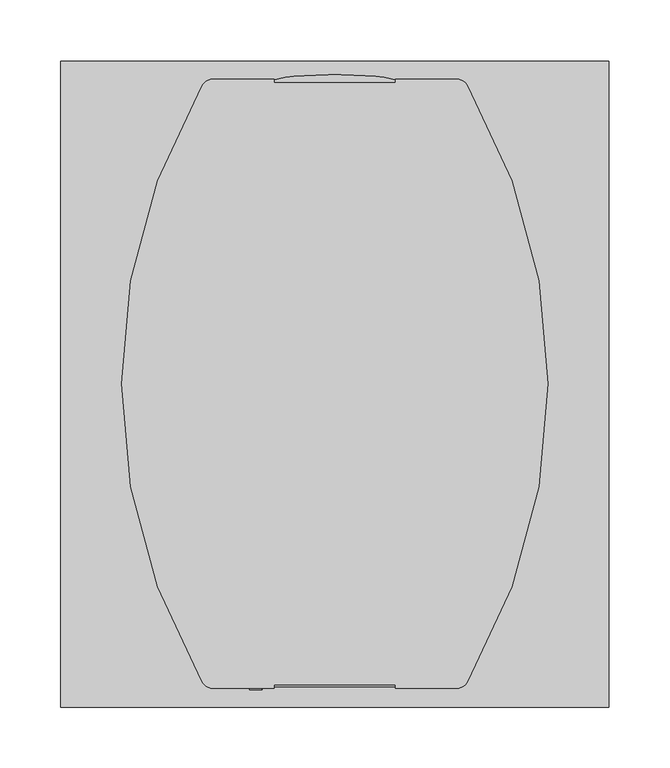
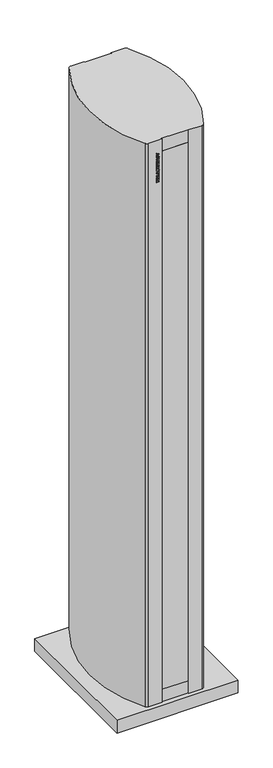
"""IFC4 building model written with IfcOpenShell, lengths in millimetres: proxy geometry, ИЗТТ_Завеса дизайнерская_Электрическая : KVC-S22E18-31."""

import ifcopenshell
import ifcopenshell.guid

model = None  # the IFC model being written
_history = None  # IfcOwnerHistory: only IFC2X3 demands one
_inside = {}  # id of a spatial element -> (the spatial element, [elements in it])
_under = {}  # id of a project, library or spatial element -> (it, [spatial elements below it])
_declared = {}  # id of a project -> (the project, [libraries it declares])
_typed = {}  # id of a type object -> (the type object, [elements of that type])
_made_of = {}  # id of a material, layer set ... -> (it, [elements and type objects made of it])


def new_model(schema):
    """Start an empty IFC model of exactly this schema.

    Asked for "IFC4X3", IfcOpenShell would pick the latest addendum, in which some entities
    have other attributes; the version numbers below select the first issue.
    IFC2X3 requires an IfcOwnerHistory on every rooted entity: one is made here for all.
    """
    global model, _history
    if schema == "IFC4X3":
        model = ifcopenshell.file(schema_version=(4, 3, 0, 0))
    else:
        model = ifcopenshell.file(schema=schema)
    _inside.clear()
    _under.clear()
    _declared.clear()
    _typed.clear()
    _made_of.clear()
    _history = None
    if model.schema == "IFC2X3":
        org = make("IfcOrganization", Name="unknown")
        user = make(
            "IfcPersonAndOrganization",
            ThePerson=make("IfcPerson", FamilyName="unknown"),
            TheOrganization=org,
        )
        app = make(
            "IfcApplication",
            ApplicationDeveloper=org,
            Version="unknown",
            ApplicationFullName="unknown",
            ApplicationIdentifier="unknown",
        )
        _history = make(
            "IfcOwnerHistory",
            OwningUser=user,
            OwningApplication=app,
            ChangeAction="ADDED",
            CreationDate=0,
        )
    return model


def make(cls, **values):
    """One entity of the class cls with the attributes given. An attribute that is None is left unset."""
    return model.create_entity(
        cls, **{name: value for name, value in values.items() if value is not None}
    )


def rooted(cls, **values):
    """An entity with a GlobalId (a new one), such as an element, a storey or a relation."""
    return make(cls, GlobalId=ifcopenshell.guid.new(), OwnerHistory=_history, **values)


def si_unit(unit_type, name, prefix=None):
    """IfcSIUnit, for example si_unit("LENGTHUNIT", "METRE", prefix="MILLI")."""
    return make("IfcSIUnit", UnitType=unit_type, Prefix=prefix, Name=name)


def assignment(units):
    """IfcUnitAssignment: the units of a project."""
    return None if units is None else make("IfcUnitAssignment", Units=units)


def point(xyz):
    """IfcCartesianPoint."""
    return None if xyz is None else make("IfcCartesianPoint", Coordinates=xyz)


def direction(xyz):
    """IfcDirection."""
    return None if xyz is None else make("IfcDirection", DirectionRatios=xyz)


def frame(location, z_axis=None, x_axis=None):
    """IfcAxis2Placement3D, a coordinate frame: its origin and axes. An axis left out is left unset."""
    return make(
        "IfcAxis2Placement3D",
        Location=point(location),
        Axis=direction(z_axis),
        RefDirection=direction(x_axis),
    )


def frame_2d(location, x_axis=None):
    """IfcAxis2Placement2D, a coordinate frame in the plane: its origin and x axis."""
    return make(
        "IfcAxis2Placement2D", Location=point(location), RefDirection=direction(x_axis)
    )


def origin():
    """The frame at (0, 0, 0) with its axes left unset."""
    return frame((0.0, 0.0, 0.0))


def origin_with_axes():
    """The frame at (0, 0, 0) with the z axis (0, 0, 1) and the x axis (1, 0, 0) written out."""
    return frame((0.0, 0.0, 0.0), z_axis=(0.0, 0.0, 1.0), x_axis=(1.0, 0.0, 0.0))


def place(relative_to, where):
    """IfcLocalPlacement: puts the frame where relative to a parent placement (None: the world)."""
    return make(
        "IfcLocalPlacement", PlacementRelTo=relative_to, RelativePlacement=where
    )


def context(
    kind, dimensions, precision=None, world=None, true_north=None, identifier=None
):
    """IfcGeometricRepresentationContext, for example the 3D "Model" context."""
    return make(
        "IfcGeometricRepresentationContext",
        ContextIdentifier=identifier,
        ContextType=kind,
        CoordinateSpaceDimension=dimensions,
        Precision=precision,
        WorldCoordinateSystem=world,
        TrueNorth=true_north,
    )


def project(units=None, contexts=None):
    """IfcProject with its units and contexts."""
    return rooted(
        "IfcProject",
        Name="project",
        RepresentationContexts=contexts,
        UnitsInContext=assignment(units),
    )


def spatial(cls, under=None, at=None, **own):
    """A site, building, storey or space (cls), placed at a placement, below another one or the project."""
    s = rooted(cls, ObjectPlacement=at, **own)
    if under is not None:
        _under.setdefault(under.id(), (under, []))[1].append(s)
    return s


def polyline(points):
    """IfcPolyline through the points."""
    return make("IfcPolyline", Points=[point(p) for p in points])


def circle_curve(where, radius):
    """IfcCircle in the frame where."""
    return make("IfcCircle", Position=where, Radius=radius)


def ellipse_curve(where, semi_axis1, semi_axis2):
    """IfcEllipse in the frame where."""
    return make(
        "IfcEllipse", Position=where, SemiAxis1=semi_axis1, SemiAxis2=semi_axis2
    )


def trimmed(basis, trim1, trim2, sense, master):
    """IfcTrimmedCurve: the piece of a basis curve between two trims."""
    return make(
        "IfcTrimmedCurve",
        BasisCurve=basis,
        Trim1=trim1,
        Trim2=trim2,
        SenseAgreement=sense,
        MasterRepresentation=master,
    )


def segment(curve, same_sense, transition):
    """IfcCompositeCurveSegment."""
    return make(
        "IfcCompositeCurveSegment",
        Transition=transition,
        SameSense=same_sense,
        ParentCurve=curve,
    )


def composite_curve(segments, self_intersect=None):
    """IfcCompositeCurve: segments joined end to end."""
    return make("IfcCompositeCurve", Segments=segments, SelfIntersect=self_intersect)


def outline(outer, holes=None, kind="AREA"):
    """IfcArbitraryClosedProfileDef: a profile drawn as a closed curve; with holes, ...WithVoids."""
    if holes is None:
        return make("IfcArbitraryClosedProfileDef", ProfileType=kind, OuterCurve=outer)
    return make(
        "IfcArbitraryProfileDefWithVoids",
        ProfileType=kind,
        OuterCurve=outer,
        InnerCurves=holes,
    )


def extrude(swept, where, along, depth):
    """IfcExtrudedAreaSolid: the profile swept, set in the frame where, extruded along a direction by depth."""
    return make(
        "IfcExtrudedAreaSolid",
        SweptArea=swept,
        Position=where,
        ExtrudedDirection=direction(along),
        Depth=depth,
    )


def faces_of(points, faces, orient=None, outer=None):
    """IfcFace entities. A face is a list of loops; a loop is a list of indices into points, from 0.

    orient and outer hold one flag for each loop. By default every Orientation is true, the
    first loop of a face is its IfcFaceOuterBound and the others are IfcFaceBound.
    """
    made = []
    for i, loops in enumerate(faces):
        bounds = []
        for j, loop in enumerate(loops):
            is_outer = j == 0 if outer is None else outer[i][j]
            bounds.append(
                make(
                    "IfcFaceOuterBound" if is_outer else "IfcFaceBound",
                    Bound=make("IfcPolyLoop", Polygon=[points[k] for k in loop]),
                    Orientation=True if orient is None else orient[i][j],
                )
            )
        made.append(make("IfcFace", Bounds=bounds))
    return made


def faceted_brep(points, faces, orient=None, outer=None, voids=None):
    """IfcFacetedBrep: a solid bounded by flat faces; with voids (closed shells), ...WithVoids."""
    shared = [point(p) for p in points]
    hull = make("IfcClosedShell", CfsFaces=faces_of(shared, faces, orient, outer))
    if voids is None:
        return make("IfcFacetedBrep", Outer=hull)
    return make(
        "IfcFacetedBrepWithVoids",
        Outer=hull,
        Voids=[
            make(cls, CfsFaces=faces_of(shared, fs, o, b)) for cls, fs, o, b in voids
        ],
    )


def shape(context_of_items, identifier, shape_type, items):
    """IfcShapeRepresentation: the items that make up one representation, for example the "Body"."""
    return make(
        "IfcShapeRepresentation",
        ContextOfItems=context_of_items,
        RepresentationIdentifier=identifier,
        RepresentationType=shape_type,
        Items=items,
    )


def source(mapping_origin, context_of_items, identifier, shape_type, items):
    """IfcRepresentationMap: a shape defined once, which mapped items show again and again."""
    return make(
        "IfcRepresentationMap",
        MappingOrigin=mapping_origin,
        MappedRepresentation=shape(context_of_items, identifier, shape_type, items),
    )


def transform(
    local_origin,
    x_axis=None,
    y_axis=None,
    z_axis=None,
    scale=None,
    scale2=None,
    scale3=None,
    uniform=True,
):
    """IfcCartesianTransformationOperator3D, or its non-uniform kind. x_axis, y_axis, z_axis: its Axis1, 2, 3."""
    if uniform:
        return make(
            "IfcCartesianTransformationOperator3D",
            Axis1=direction(x_axis),
            Axis2=direction(y_axis),
            LocalOrigin=point(local_origin),
            Scale=scale,
            Axis3=direction(z_axis),
        )
    return make(
        "IfcCartesianTransformationOperator3DnonUniform",
        Axis1=direction(x_axis),
        Axis2=direction(y_axis),
        LocalOrigin=point(local_origin),
        Scale=scale,
        Axis3=direction(z_axis),
        Scale2=scale2,
        Scale3=scale3,
    )


def mapped(mapping_source, mapping_target):
    """IfcMappedItem: shows the shape of a source again, moved by a transform."""
    return make(
        "IfcMappedItem", MappingSource=mapping_source, MappingTarget=mapping_target
    )


def made_of(thing, what):
    """Note that an element or type object is made of a material, layer set ...; save() writes the relation."""
    if what is not None:
        _made_of.setdefault(what.id(), (what, []))[1].append(thing)
    return thing


def element(
    cls,
    number,
    at=None,
    inside=None,
    cuts=None,
    type_object=None,
    material=None,
    context=None,
    identifier="Body",
    shape_type=None,
    held_by="IfcProductDefinitionShape",
    body=None,
    shapes=None,
    **own,
):
    """One element of the class cls, such as IfcWall. Its Tag is "e" and its number.

    at: its placement. inside: the storey or other place that contains it. cuts: it is an
    opening in that element (IfcRelVoidsElement). A single representation is given by context,
    identifier, shape_type and body (its items); several are given by shapes. held_by: the class
    of the entity that holds the representations. save() writes the other relations.
    """
    e = rooted(cls, Tag="e%d" % number, ObjectPlacement=at, **own)
    if body is not None:
        shapes = [shape(context, identifier, shape_type, body)]
    if shapes is not None:
        e.Representation = make(held_by, Representations=shapes)
    if inside is not None:
        _inside.setdefault(inside.id(), (inside, []))[1].append(e)
    if cuts is not None:
        rooted(
            "IfcRelVoidsElement", RelatingBuildingElement=cuts, RelatedOpeningElement=e
        )
    if type_object is not None:
        _typed.setdefault(type_object.id(), (type_object, []))[1].append(e)
    return made_of(e, material)


def aggregate(whole, parts):
    """IfcRelAggregates: a whole, such as a stair, and the parts it consists of."""
    return rooted("IfcRelAggregates", RelatingObject=whole, RelatedObjects=parts)


def save(model, path):
    """Write the relations noted so far, then the file.

    IfcRelAggregates (storeys below a building ...), IfcRelContainedInSpatialStructure (elements
    in a storey), IfcRelDefinesByType, IfcRelAssociatesMaterial and IfcRelDeclares: one each for
    every whole, place, type object, material and project.
    """
    for whole, parts in _under.values():
        aggregate(whole, parts)
    for where, things in _inside.values():
        rooted(
            "IfcRelContainedInSpatialStructure",
            RelatedElements=things,
            RelatingStructure=where,
        )
    for kind, things in _typed.values():
        rooted("IfcRelDefinesByType", RelatedObjects=things, RelatingType=kind)
    for what, things in _made_of.values():
        rooted("IfcRelAssociatesMaterial", RelatedObjects=things, RelatingMaterial=what)
    for by, libraries in _declared.values():
        rooted("IfcRelDeclares", RelatingContext=by, RelatedDefinitions=libraries)
    model.write(path)


def plane_surface(at):
    """IfcPlane: the flat surface through the origin of the frame at, square to its z axis."""
    return make("IfcPlane", Position=at)


def extruded_surface(curve, direction_of_extrusion, depth):
    """IfcSurfaceOfLinearExtrusion: the curve pushed along a direction by depth."""
    return make(
        "IfcSurfaceOfLinearExtrusion",
        SweptCurve=make("IfcArbitraryOpenProfileDef", ProfileType="CURVE", Curve=curve),
        ExtrudedDirection=direction(direction_of_extrusion),
        Depth=depth,
    )


def advanced_brep(points, edges, surfaces, faces):
    """IfcAdvancedBrep: a solid bounded by faces that lie on surfaces and meet in shared edges.

    An edge is (start, end): straight between two places in points (the first is 0);
    or (start, end, curve); or (start, end, curve, False) where it runs against its curve.
    A face is (place in surfaces, loops), or (place, loops, False) where it looks against
    its surface's normal. A loop lists edges by number (the first is 1), with a minus sign
    where the edge is run from its end to its start. The first loop is the outer one.
    """
    corners = [point(p) for p in points]
    vertices = [make("IfcVertexPoint", VertexGeometry=c) for c in corners]
    made = []
    for start, end, *more in edges:
        made.append(
            make(
                "IfcEdgeCurve",
                EdgeStart=vertices[start],
                EdgeEnd=vertices[end],
                EdgeGeometry=more[0] if more else make("IfcPolyline", Points=[corners[start], corners[end]]),
                SameSense=more[1] if len(more) > 1 else True,
            )
        )
    hull = []
    for where, loops, *sense in faces:
        bounds = []
        for j, loop in enumerate(loops):
            ring = [make("IfcOrientedEdge", EdgeElement=made[abs(k) - 1], Orientation=k > 0) for k in loop]
            bounds.append(
                make(
                    "IfcFaceOuterBound" if j == 0 else "IfcFaceBound",
                    Bound=make("IfcEdgeLoop", EdgeList=ring),
                    Orientation=True,
                )
            )
        hull.append(make("IfcAdvancedFace", Bounds=bounds, FaceSurface=surfaces[where], SameSense=sense[0] if sense else True))
    return make("IfcAdvancedBrep", Outer=make("IfcClosedShell", CfsFaces=hull))


def mechanical_equipment_84d2b772(model_context):
    return source(origin(), model_context, "Body", "SolidModel", [
        extrude(outline(polyline([(2100.0784314, -70.0), (2100.0784314, -60.0), (2103.2156863, -60.0), (2103.2156863, -61.7647059), (2104.9865196, -63.7745098), (2106.8186275, -60.0), (2110.6666667, -60.0), (2107.192402, -66.2775735), (2110.4705882, -70.0), (2106.1997549, -70.0), (2103.2156863, -66.2224265), (2103.2156863, -70.0), (2100.0784314, -70.0)])), frame((0.0, -251.0, 0.0), z_axis=(0.0, 1.0, 0.0), x_axis=(0.0, 0.0, 1.0)), (0.0, 0.0, 1.0), 1.0),
        extrude(outline(polyline([(2117.6642157, -61.5686275), (2118.1176471, -60.0), (2121.4509804, -60.0), (2118.0778186, -70.0), (2114.0398284, -70.0), (2110.6666667, -60.0), (2114.0, -60.0), (2114.4319853, -61.5686275), (2117.6642157, -61.5686275)]), holes=[polyline([(2117.0698529, -63.9215686), (2115.0814951, -63.9215686), (2116.0588235, -67.4540441), (2117.0698529, -63.9215686)])]), frame((0.0, -251.0, 0.0), z_axis=(0.0, 1.0, 0.0), x_axis=(0.0, 0.0, 1.0)), (0.0, 0.0, 1.0), 1.0),
        extrude(outline(polyline([(2122.4313725, -70.0), (2122.4313725, -60.0), (2130.2745098, -60.0), (2130.2745098, -62.3529412), (2125.5686275, -62.3529412), (2125.5686275, -70.0), (2122.4313725, -70.0)])), frame((0.0, -251.0, 0.0), z_axis=(0.0, 1.0, 0.0), x_axis=(0.0, 0.0, 1.0)), (0.0, 0.0, 1.0), 1.0),
        extrude(outline(polyline([(2137.6642157, -61.5686275), (2138.1176471, -60.0), (2141.4509804, -60.0), (2138.0778186, -70.0), (2134.0398284, -70.0), (2130.6666667, -60.0), (2134.0, -60.0), (2134.4319853, -61.5686275), (2137.6642157, -61.5686275)]), holes=[polyline([(2137.0698529, -63.9215686), (2135.0814951, -63.9215686), (2136.0588235, -67.4540441), (2137.0698529, -63.9215686)])]), frame((0.0, -251.0, 0.0), z_axis=(0.0, 1.0, 0.0), x_axis=(0.0, 0.0, 1.0)), (0.0, 0.0, 1.0), 1.0),
        extrude(outline(polyline([(2141.8431373, -63.3394608), (2142.9491422, -60.8026961), (2146.4601716, -59.8039216), (2148.8560049, -60.2297794), (2150.3342525, -61.4813113), (2150.8627451, -63.28125), (2150.4675245, -64.7870711), (2149.2022059, -65.9129902), (2146.3223039, -66.8106618), (2146.1905637, -68.4313725), (2146.9641544, -68.1050858), (2147.3333333, -67.0588235), (2150.4705882, -67.2395833), (2149.2925858, -69.4883578), (2146.4172794, -70.1960784), (2143.9969363, -69.8039216), (2142.6749387, -68.7285539), (2142.2352941, -67.276348), (2143.1023284, -65.3492647), (2145.9761029, -64.1237745), (2147.7254902, -62.8186275), (2147.4114583, -62.0818015), (2146.5183824, -61.7647059), (2145.3204657, -62.3958333), (2144.9803922, -63.5294118), (2141.8431373, -63.3394608)])), frame((0.0, -251.0, 0.0), z_axis=(0.0, 1.0, 0.0), x_axis=(0.0, 0.0, 1.0)), (0.0, 0.0, 1.0), 1.0),
        extrude(outline(polyline([(2152.4313725, -70.0), (2152.4313725, -60.0), (2155.5686275, -60.0), (2155.5686275, -64.1176471), (2158.9019608, -64.1176471), (2158.9019608, -60.0), (2162.0392157, -60.0), (2162.0392157, -70.0), (2158.9019608, -70.0), (2158.9019608, -66.4705882), (2155.5686275, -66.4705882), (2155.5686275, -70.0), (2152.4313725, -70.0)])), frame((0.0, -251.0, 0.0), z_axis=(0.0, 1.0, 0.0), x_axis=(0.0, 0.0, 1.0)), (0.0, 0.0, 1.0), 1.0),
        extrude(outline(polyline([(2164.0, -70.0), (2164.0, -60.0), (2166.9411765, -60.0), (2166.9411765, -65.4901961), (2170.6666667, -60.0), (2173.6078431, -60.0), (2173.6078431, -70.0), (2170.6666667, -70.0), (2170.6666667, -64.4730392), (2166.9197304, -70.0), (2164.0, -70.0)])), frame((0.0, -251.0, 0.0), z_axis=(0.0, 1.0, 0.0), x_axis=(0.0, 0.0, 1.0)), (0.0, 0.0, 1.0), 1.0),
        extrude(outline(polyline([(-60.0, -251.0), (-70.0, -251.0), (-70.0, -250.0), (-60.0, -250.0), (-60.0, -251.0)])), frame((0.0, 0.0, 2175.7647059), z_axis=(0.0, 0.0, 1.0), x_axis=(1.0, 0.0, 0.0)), (0.0, 0.0, 1.0), 3.1372549),
        extrude(outline(polyline([(2181.0588235, -70.0), (2181.0588235, -60.0), (2184.1960784, -60.0), (2184.1960784, -61.7647059), (2185.9669118, -63.7745098), (2187.7990196, -60.0), (2191.6470588, -60.0), (2188.1727941, -66.2775735), (2191.4509804, -70.0), (2187.1801471, -70.0), (2184.1960784, -66.2224265), (2184.1960784, -70.0), (2181.0588235, -70.0)])), frame((0.0, -251.0, 0.0), z_axis=(0.0, 1.0, 0.0), x_axis=(0.0, 0.0, 1.0)), (0.0, 0.0, 1.0), 1.0),
        extrude(outline(polyline([(2192.2352941, -64.9938725), (2192.9261642, -62.0603554), (2194.7291667, -60.346201), (2197.5386029, -59.8039216), (2200.3250613, -60.4304534), (2202.036152, -62.1859681), (2202.627451, -65.0765931), (2201.2732843, -68.8495711), (2197.4129902, -70.1960784), (2193.6032475, -68.8250613), (2192.2352941, -64.9938725)]), holes=[polyline([(2195.372549, -64.9938725), (2195.9301471, -67.1813725), (2197.4068627, -67.8431373), (2198.9295343, -67.1920956), (2199.4901961, -65.1286765), (2198.9525123, -62.8048407), (2197.4344363, -62.1568627), (2195.9270833, -62.8186275), (2195.372549, -64.9938725)])]), frame((0.0, -251.0, 0.0), z_axis=(0.0, 1.0, 0.0), x_axis=(0.0, 0.0, 1.0)), (0.0, 0.0, 1.0), 1.0),
        extrude(outline(polyline([(2203.4117647, -70.0), (2207.1280637, -60.0), (2210.4583333, -60.0), (2214.1960784, -70.0), (2210.8627451, -70.0), (2208.8039216, -62.8033088), (2206.7420343, -70.0), (2203.4117647, -70.0)])), frame((0.0, -251.0, 0.0), z_axis=(0.0, 1.0, 0.0), x_axis=(0.0, 0.0, 1.0)), (0.0, 0.0, 1.0), 1.0),
        extrude(outline(polyline([(225.0, 265.0), (225.0, -265.0), (-225.0, -265.0), (-225.0, 265.0), (225.0, 265.0)])), origin_with_axes(), (0.0, 0.0, 1.0), 50.0),
        faceted_brep([(50.0, -247.0, 2214.0), (-50.0, -247.0, 2214.0), (-50.0, -248.5, 2214.0), (50.0, -248.5, 2214.0), (50.0, -247.0, 100.0), (50.0, -248.5, 100.0), (-50.0, -248.5, 100.0), (-50.0, -247.0, 100.0)], [[[0, 1, 2, 3]], [[4, 5, 6, 7]], [[1, 0, 4, 7]], [[2, 1, 7, 6]], [[3, 2, 6, 5]], [[0, 3, 5, 4]]]),
        advanced_brep(
        [(-50.0, 248.5, 2214.0), (-50.0, 247.0, 2214.0), (50.0, 247.0, 2214.0), (50.0, 248.5, 2214.0), (-50.0, 248.5, 100.0), (50.0, 248.5, 100.0), (50.0, 247.0, 100.0), (-50.0, 247.0, 100.0)],
        [
            (0, 1),
            (1, 2),
            (2, 3),
            (3, 0, ellipse_curve(frame((0.0, 248.5, 2214.0), z_axis=(0.0, 0.0, 1.0), x_axis=(-1.0, 0.0, 0.0)), 50.0, 5.0)),
            (4, 5, ellipse_curve(frame((0.0, 248.5, 100.0), z_axis=(0.0, 0.0, -1.0), x_axis=(-1.0, 0.0, 0.0)), 50.0, 5.0)),
            (5, 6),
            (6, 7),
            (7, 4),
            (0, 4),
            (7, 1),
            (6, 2),
            (5, 3),
        ],
        [
            plane_surface(frame((-50.0, -247.0, 2214.0), z_axis=(0.0, 0.0, 1.0), x_axis=(-1.0, 0.0, 0.0))),
            plane_surface(frame((-50.0, -247.0, 100.0), z_axis=(0.0, 0.0, -1.0), x_axis=(1.0, 0.0, 0.0))),
            plane_surface(frame((-50.0, 248.5, 2214.0), z_axis=(-1.0, 0.0, 0.0), x_axis=(0.0, 0.0, -1.0))),
            plane_surface(frame((-50.0, 247.0, 2214.0), z_axis=(0.0, -1.0, 0.0), x_axis=(0.0, 0.0, -1.0))),
            plane_surface(frame((50.0, 247.0, 2214.0), z_axis=(1.0, 0.0, 0.0), x_axis=(0.0, 0.0, -1.0))),
            extruded_surface(trimmed(ellipse_curve(frame((0.0, 248.5, -2114.0), z_axis=(0.0, 0.0, 1.0), x_axis=(-1.0, 0.0, 0.0)), 50.0, 5.0), [point((50.0, 248.5, -2114.0))], [point((-50.0, 248.5, -2114.0))], True, "CARTESIAN"), (0.0, 0.0, 2114.0), 2114.0),
        ],
        [
            (0, [[1, 2, 3, 4]]),
            (1, [[5, 6, 7, 8]]),
            (2, [[-1, 9, -8, 10]]),
            (3, [[-2, -10, -7, 11]]),
            (4, [[-3, -11, -6, 12]]),
            (5, [[-4, -12, -5, -9]]),
        ],
    ),
        extrude(outline(composite_curve([segment(polyline([(-50.0, 250.0), (-50.0, 247.0), (50.0, 247.0), (50.0, 250.0), (100.0, 250.0)]), True, "CONTINUOUS"), segment(trimmed(circle_curve(frame_2d((100.0, 240.0)), 10.0), [point((100.0, 250.0))], [point((109.287324, 243.7075077))], False, "CARTESIAN"), True, "CONTINUOUS"), segment(trimmed(circle_curve(frame_2d((-309.7733265, 0.0)), 484.7733265), [point((109.287324, 243.7075077))], [point((109.287324, -243.7075077))], False, "CARTESIAN"), True, "CONTINUOUS"), segment(trimmed(circle_curve(frame_2d((100.0, -240.0)), 10.0), [point((109.287324, -243.7075077))], [point((100.0, -250.0))], False, "CARTESIAN"), True, "CONTINUOUS"), segment(polyline([(100.0, -250.0), (50.0, -250.0), (50.0, -247.0), (-50.0, -247.0), (-50.0, -250.0), (-100.0, -250.0)]), True, "CONTINUOUS"), segment(trimmed(circle_curve(frame_2d((-100.0, -240.0)), 10.0), [point((-100.0, -250.0))], [point((-109.287324, -243.7075077))], False, "CARTESIAN"), True, "CONTINUOUS"), segment(trimmed(circle_curve(frame_2d((309.7733265, 0.0)), 484.7733265), [point((-109.287324, -243.7075077))], [point((-109.287324, 243.7075077))], False, "CARTESIAN"), True, "CONTINUOUS"), segment(trimmed(circle_curve(frame_2d((-100.0, 240.0)), 10.0), [point((-109.287324, 243.7075077))], [point((-100.0, 250.0))], False, "CARTESIAN"), True, "CONTINUOUS"), segment(polyline([(-100.0, 250.0), (-50.0, 250.0)]), True, "CONTINUOUS")], self_intersect=False)), frame((0.0, 0.0, 50.0), z_axis=(0.0, 0.0, 1.0), x_axis=(1.0, 0.0, 0.0)), (0.0, 0.0, 1.0), 2214.0),
    ])


if __name__ == "__main__":
    model = new_model("IFC4")
    model_context = context("Model", 3, world=origin())
    ifc_project = project(units=[si_unit("LENGTHUNIT", "METRE", prefix="MILLI")], contexts=[model_context])
    site = spatial("IfcSite", under=ifc_project)
    building = spatial("IfcBuilding", under=site)
    placement = place(None, origin())
    mechanical_equipment_shape = mechanical_equipment_84d2b772(model_context)
    element("IfcBuildingElementProxy", 1, Name="ИЗТТ_Завеса дизайнерская_Электрическая : KVC-S22E18-31", ObjectType="ИЗТТ_Завеса дизайнерская_Электрическая : KVC-S22E18-31", at=placement, inside=building, context=model_context, shape_type="MappedRepresentation", body=[
        mapped(mechanical_equipment_shape, transform((0.0, 0.0, 0.0), x_axis=(1.0, 0.0, 0.0), y_axis=(0.0, 1.0, 0.0), z_axis=(0.0, 0.0, 1.0))),
    ])
    save(model, "model.ifc")
